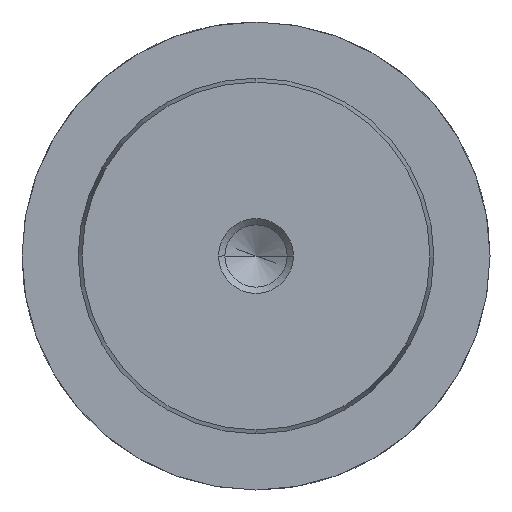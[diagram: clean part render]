
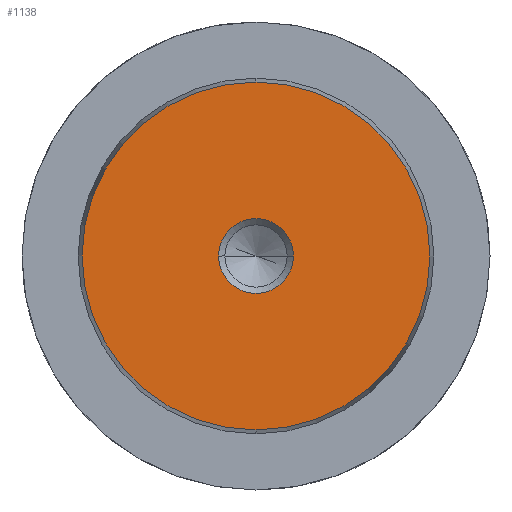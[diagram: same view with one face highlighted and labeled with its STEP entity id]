
A CAD part, left-side view. The second image highlights one B-rep face of the part: STEP entity #1138.
In plain terms, the highlighted planar face has unit normal (-1, 0, 0).
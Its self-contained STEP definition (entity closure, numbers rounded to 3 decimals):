
#1052=CARTESIAN_POINT('Vertex',(0.,0.,-18.578)) ;
#1055=CARTESIAN_POINT('Axis2P3D Location',(0.,0.,0.)) ;
#1059=CARTESIAN_POINT('Vertex',(0.,18.578,0.)) ;
#1062=CARTESIAN_POINT('Axis2P3D Location',(0.,0.,0.)) ;
#1066=CARTESIAN_POINT('Vertex',(0.,0.,18.578)) ;
#1088=CARTESIAN_POINT('Axis2P3D Location',(0.,0.,0.)) ;
#1092=CARTESIAN_POINT('Vertex',(0.,-18.578,0.)) ;
#1095=CARTESIAN_POINT('Axis2P3D Location',(0.,0.,0.)) ;
#1109=CARTESIAN_POINT('Axis2P3D Location',(0.,0.,0.)) ;
#1120=CARTESIAN_POINT('Axis2P3D Location',(0.,0.,0.)) ;
#1124=CARTESIAN_POINT('Vertex',(0.,4.,0.)) ;
#1126=CARTESIAN_POINT('Vertex',(0.,-4.,0.)) ;
#1129=CARTESIAN_POINT('Axis2P3D Location',(0.,0.,0.)) ;
#1056=DIRECTION('Axis2P3D Direction',(1.,-0.,0.)) ;
#1063=DIRECTION('Axis2P3D Direction',(1.,-0.,0.)) ;
#1089=DIRECTION('Axis2P3D Direction',(1.,0.,-0.)) ;
#1096=DIRECTION('Axis2P3D Direction',(1.,0.,-0.)) ;
#1110=DIRECTION('Axis2P3D Direction',(1.,0.,-0.)) ;
#1111=DIRECTION('Axis2P3D XDirection',(-0.,0.,-1.)) ;
#1121=DIRECTION('Axis2P3D Direction',(1.,0.,-0.)) ;
#1130=DIRECTION('Axis2P3D Direction',(1.,0.,-0.)) ;
#1057=AXIS2_PLACEMENT_3D('Circle Axis2P3D',#1055,#1056,$) ;
#1064=AXIS2_PLACEMENT_3D('Circle Axis2P3D',#1062,#1063,$) ;
#1090=AXIS2_PLACEMENT_3D('Circle Axis2P3D',#1088,#1089,$) ;
#1097=AXIS2_PLACEMENT_3D('Circle Axis2P3D',#1095,#1096,$) ;
#1112=AXIS2_PLACEMENT_3D('Plane Axis2P3D',#1109,#1110,#1111) ;
#1122=AXIS2_PLACEMENT_3D('Circle Axis2P3D',#1120,#1121,$) ;
#1131=AXIS2_PLACEMENT_3D('Circle Axis2P3D',#1129,#1130,$) ;
#1115=ORIENTED_EDGE('',*,*,#1061,.F.) ;
#1116=ORIENTED_EDGE('',*,*,#1099,.F.) ;
#1117=ORIENTED_EDGE('',*,*,#1094,.F.) ;
#1118=ORIENTED_EDGE('',*,*,#1068,.F.) ;
#1135=ORIENTED_EDGE('',*,*,#1128,.T.) ;
#1136=ORIENTED_EDGE('',*,*,#1133,.T.) ;
#1137=FACE_BOUND('',#1134,.T.) ;
#1138=ADVANCED_FACE('719-38x125',(#1119,#1137),#1113,.F.) ;
#1058=CIRCLE('generated circle',#1057,18.578) ;
#1065=CIRCLE('generated circle',#1064,18.578) ;
#1091=CIRCLE('generated circle',#1090,18.578) ;
#1098=CIRCLE('generated circle',#1097,18.578) ;
#1123=CIRCLE('generated circle',#1122,4.) ;
#1132=CIRCLE('generated circle',#1131,4.) ;
#1061=EDGE_CURVE('',#1053,#1060,#1058,.T.) ;
#1068=EDGE_CURVE('',#1060,#1067,#1065,.T.) ;
#1094=EDGE_CURVE('',#1067,#1093,#1091,.T.) ;
#1099=EDGE_CURVE('',#1093,#1053,#1098,.T.) ;
#1128=EDGE_CURVE('',#1125,#1127,#1123,.T.) ;
#1133=EDGE_CURVE('',#1127,#1125,#1132,.T.) ;
#1114=EDGE_LOOP('',(#1115,#1116,#1117,#1118)) ;
#1134=EDGE_LOOP('',(#1135,#1136)) ;
#1119=FACE_OUTER_BOUND('',#1114,.T.) ;
#1113=PLANE('Plane',#1112) ;
#1053=VERTEX_POINT('',#1052) ;
#1060=VERTEX_POINT('',#1059) ;
#1067=VERTEX_POINT('',#1066) ;
#1093=VERTEX_POINT('',#1092) ;
#1125=VERTEX_POINT('',#1124) ;
#1127=VERTEX_POINT('',#1126) ;
